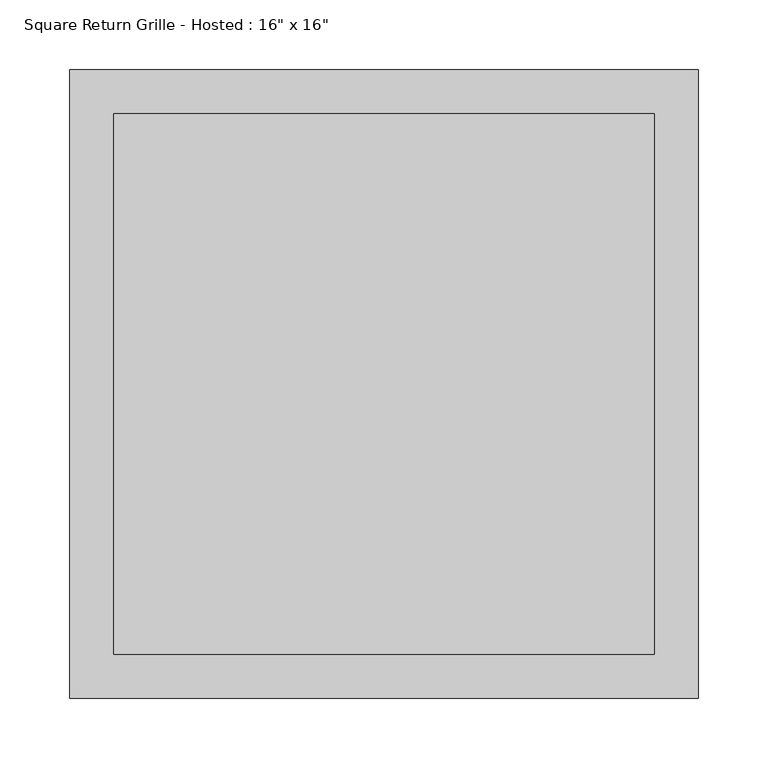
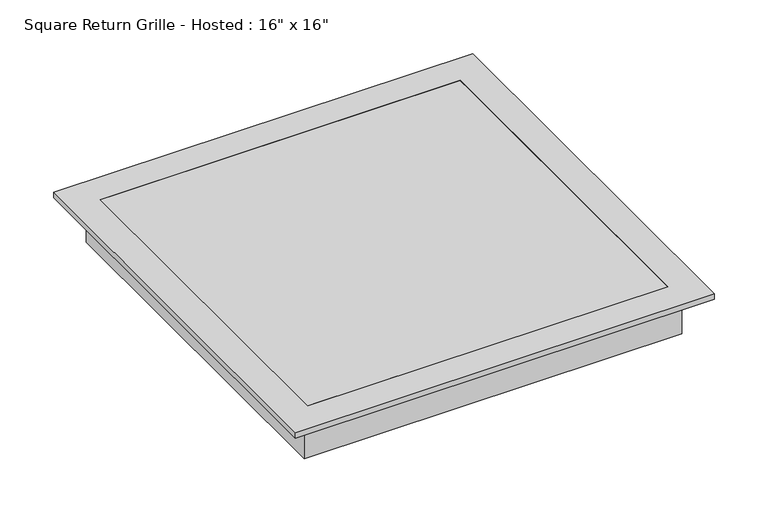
"""IFC4 building model written with IfcOpenShell, lengths in millimetres: air terminal geometry."""

from ifc_helpers import new_model, si_unit, frame, origin, place, context, project, spatial, polyline, outline, extrude, faceted_brep, source, transform, mapped, element, save


def air_terminal_831a3b9e(model_context):
    return source(origin(), model_context, "Body", "SolidModel", [
        faceted_brep([(1076.325, 22.225, -44.45), (1076.325, -384.175, -44.45), (669.925, -384.175, -44.45), (669.925, 22.225, -44.45), (669.925, 22.225, 0.0), (1076.325, 22.225, 0.0), (669.925, -384.175, 0.0), (1076.325, -384.175, 0.0), (1098.55, -406.4, 6.35), (1098.55, 44.45, 6.35), (647.7, 44.45, 6.35), (647.7, -406.4, 6.35), (679.45, 12.7, 6.35), (1066.8, 12.7, 6.35), (1066.8, -374.65, 6.35), (679.45, -374.65, 6.35), (1098.55, -406.4, 0.0), (647.7, -406.4, 0.0), (647.7, 44.45, 0.0), (1098.55, 44.45, 0.0), (1066.8, 12.7, -19.05), (679.45, 12.7, -19.05), (679.45, -374.65, -19.05), (1066.8, -374.65, -19.05)], [[[0, 1, 2, 3]], [[0, 3, 4, 5]], [[3, 2, 6, 4]], [[2, 1, 7, 6]], [[1, 0, 5, 7]], [[8, 9, 10, 11], [12, 13, 14, 15]], [[16, 17, 18, 19], [5, 4, 6, 7]], [[9, 8, 16, 19]], [[10, 9, 19, 18]], [[11, 10, 18, 17]], [[8, 11, 17, 16]], [[20, 21, 22, 23]], [[21, 20, 13, 12]], [[22, 21, 12, 15]], [[23, 22, 15, 14]], [[20, 23, 14, 13]]]),
        extrude(outline(polyline([(1066.8, -374.65), (679.45, -374.65), (679.45, 12.7), (1066.8, 12.7), (1066.8, -374.65)])), frame((0.0, 0.0, -44.45), z_axis=(0.0, 0.0, 1.0), x_axis=(1.0, 0.0, 0.0)), (0.0, 0.0, 1.0), 50.8),
    ])


if __name__ == "__main__":
    model = new_model("IFC4")
    model_context = context("Model", 3, world=origin())
    ifc_project = project(units=[si_unit("LENGTHUNIT", "METRE", prefix="MILLI")], contexts=[model_context])
    site = spatial("IfcSite", under=ifc_project)
    building = spatial("IfcBuilding", under=site)
    placement = place(None, origin())
    air_terminal_shape = air_terminal_831a3b9e(model_context)
    element("IfcAirTerminal", 1, ObjectType="Square Return Grille - Hosted : 16\" x 16\"", at=placement, inside=building, context=model_context, shape_type="MappedRepresentation", body=[
        mapped(air_terminal_shape, transform((0.0, 0.0, 0.0), x_axis=(1.0, 0.0, 0.0), y_axis=(0.0, 1.0, 0.0), z_axis=(0.0, 0.0, 1.0))),
    ])
    save(model, "model.ifc")
